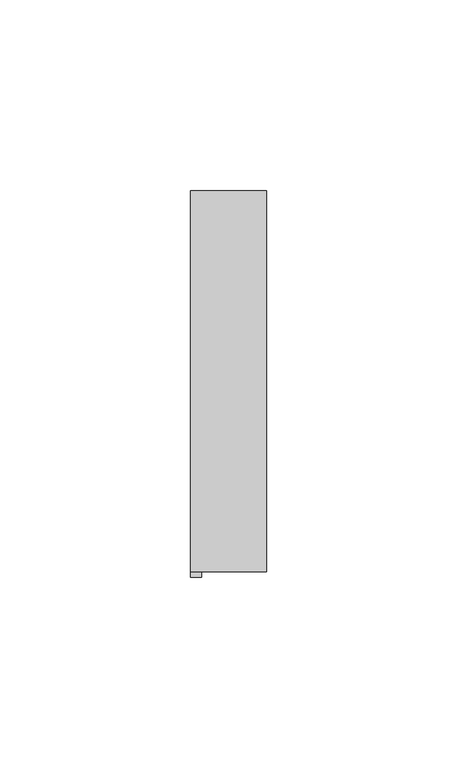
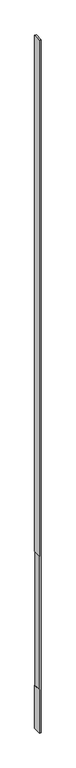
"""IFC4 building model written with IfcOpenShell, lengths in millimetres: plate geometry, システム パネルなし : なし."""

from ifc_helpers import new_model, si_unit, frame, origin, place, context, project, spatial, polyline, outline, extrude, source, transform, mapped, element, save


def plate_33c2b598(model_context):
    return source(origin(), model_context, "Body", "SweptSolid", [
        extrude(outline(polyline([(0.0, -10.0), (0.0, 10.0), (8902.0, 10.0), (8902.0, -10.0), (2274.2905914, -10.0), (2274.2905914, -7.0), (554.2905914, -7.0), (554.2905914, -10.0), (0.0, -10.0)])), frame((0.0, -50.0, 0.0), z_axis=(0.0, 1.0, 0.0), x_axis=(0.0, 0.0, 1.0)), (0.0, 0.0, 1.0), 100.0),
    ])


if __name__ == "__main__":
    model = new_model("IFC4")
    model_context = context("Model", 3, world=origin())
    ifc_project = project(units=[si_unit("LENGTHUNIT", "METRE", prefix="MILLI")], contexts=[model_context])
    site = spatial("IfcSite", under=ifc_project)
    building = spatial("IfcBuilding", under=site)
    placement = place(None, origin())
    plate_shape = plate_33c2b598(model_context)
    element("IfcPlate", 1, ObjectType="システム パネルなし : なし", at=placement, inside=building, context=model_context, shape_type="MappedRepresentation", body=[
        mapped(plate_shape, transform((0.0, 0.0, 0.0), x_axis=(1.0, 0.0, 0.0), y_axis=(0.0, 1.0, 0.0), z_axis=(0.0, 0.0, 1.0))),
    ])
    save(model, "model.ifc")
